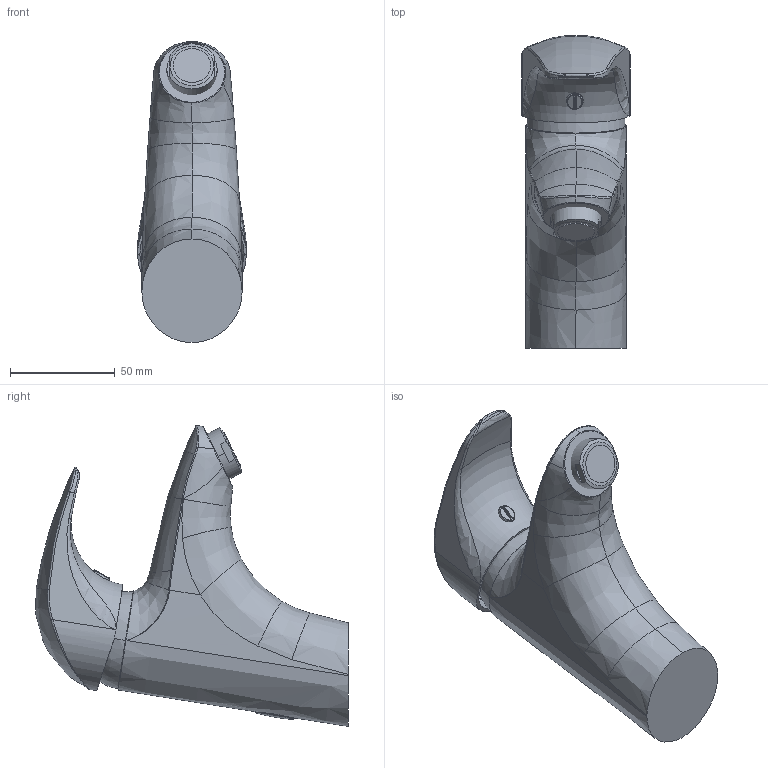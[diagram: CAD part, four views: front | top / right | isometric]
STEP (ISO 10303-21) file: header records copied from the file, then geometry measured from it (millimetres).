
FILE_DESCRIPTION((''),'2;1');
FILE_NAME('10821_SUB01_SW0001','2026-10-07T12:54:31',('simi1'),(''),'CREO PARAMETRIC BY PTC INC, 2022244','CREO PARAMETRIC BY PTC INC, 2022244','');
FILE_SCHEMA(('CONFIG_CONTROL_DESIGN'));
Length unit declared in the file: millimetre
Products named in the file (1): 10821_SUB01_SW0001
Bounding box: 52 x 149.59 x 143.99 mm (x, y, z)
Surface area: 53329.3 mm2 (no closed solid volume)
Topology: 0 solids, 26 shells, 305 faces, 1388 edges, 1085 vertices
Faces by surface type: bspline 138, plane 95, cylinder 26, torus 25, cone 9, extrusion 6, sphere 6
Entity records: 22982 total; most frequent: CARTESIAN_POINT 14365, ORIENTED_EDGE 1952, EDGE_CURVE 1387, VERTEX_POINT 1085, DIRECTION 1015, B_SPLINE_CURVE_WITH_KNOTS 950, AXIS2_PLACEMENT_3D 405, EDGE_LOOP 305
